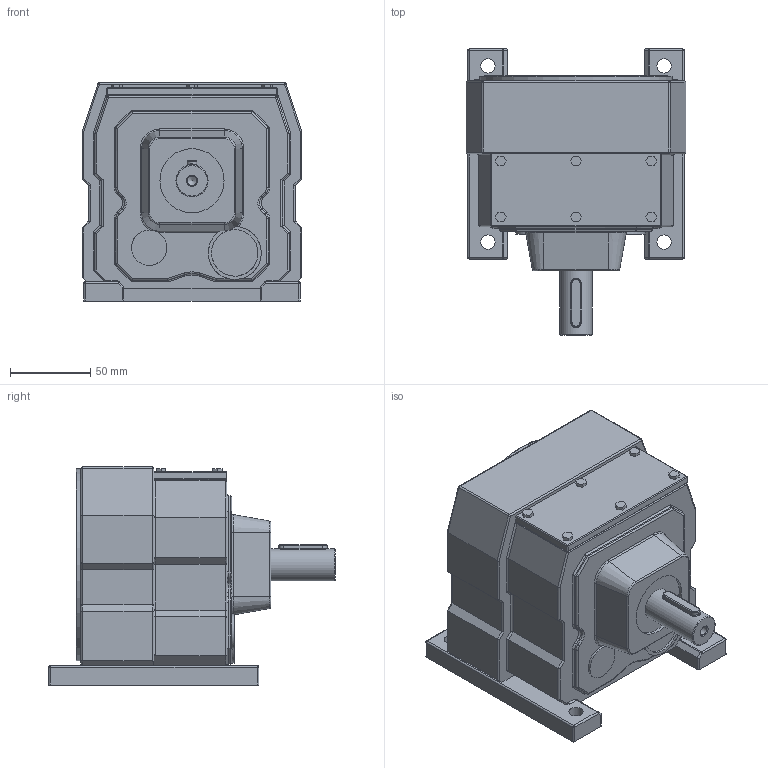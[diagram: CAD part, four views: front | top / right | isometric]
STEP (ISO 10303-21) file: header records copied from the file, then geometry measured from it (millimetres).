
FILE_DESCRIPTION((''),'2;1');
FILE_NAME('D:\PAWEŁ\ZLECENIA\2011 DualSystem\Przekładnie DR\DR10\STEP\DR10.stp','2012-06-11T11:45:38',('admin'),(''),'Autodesk Inventor 2009','Autodesk Inventor 2009','');
FILE_SCHEMA(('AUTOMOTIVE_DESIGN { 1 0 10303 214 1 1 1 1 }'));
Length unit declared in the file: millimetre
Products named in the file (1): DR10
Bounding box: 137 x 178.5 x 136 mm (x, y, z)
Volume: 1668352.1 mm3; surface area: 103325.9 mm2
Topology: 1 solids, 1 shells, 364 faces, 871 edges, 507 vertices
Faces by surface type: cylinder 163, plane 135, bspline 26, sphere 18, torus 17, cone 5
Full cylindrical faces by diameter (mm): 9 x4, 13 x4, 20 x1, 22 x1, 29 x1, 40 x1, 80 x1, 120 x1
Entity records: 11999 total; most frequent: CARTESIAN_POINT 3635, DIRECTION 1784, ORIENTED_EDGE 1646, EDGE_CURVE 823, AXIS2_PLACEMENT_3D 646, VERTEX_POINT 498, VECTOR 492, LINE 492
